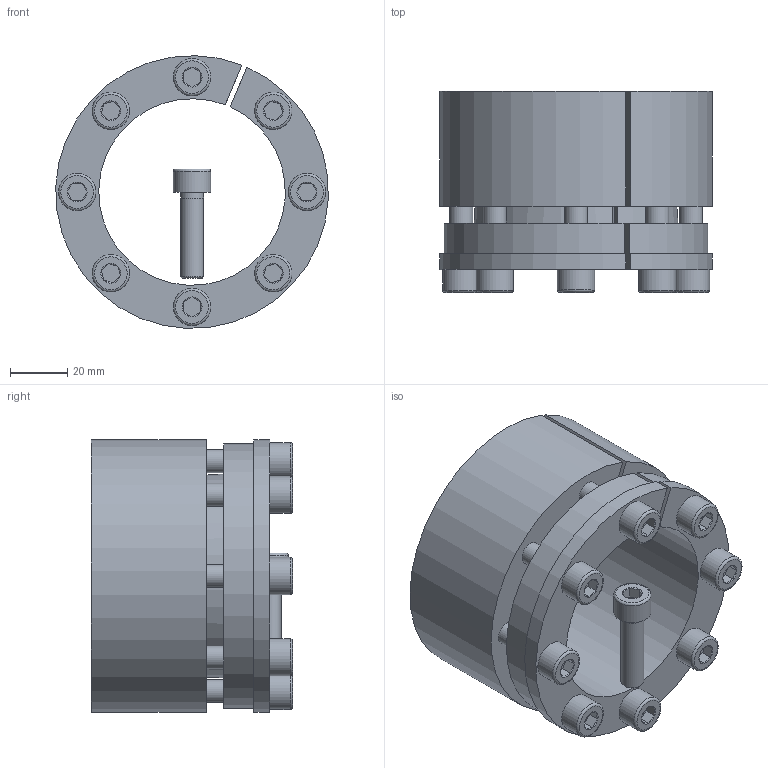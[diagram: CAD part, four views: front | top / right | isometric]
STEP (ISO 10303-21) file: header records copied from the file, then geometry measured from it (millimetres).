
FILE_DESCRIPTION( ( 'Unknown' ), '1' );
FILE_NAME( 'C:/Dokumente und Einstellungen/Sven/Desktop/homepage/cad - homepage/KBS70/KBS 70 - 65 x 95.stp', 'Unknown', ( 'Unknown' ), ( 'Unknown' ), 'XStep 1.0', 'Unknown', ' ' );
FILE_SCHEMA( ( 'automotive_design' ) );
Length unit declared in the file: millimetre
Products named in the file (3): Assem1; KBS 70 - 65 x 95; ISO EN DIN 4762 M8x30
Bounding box: 94.9 x 70 x 94.93 mm (x, y, z)
Volume: 393210 mm3; surface area: 123867.4 mm2
Topology: 11 solids, 11 shells, 285 faces, 583 edges, 356 vertices
Faces by surface type: plane 124, cylinder 76, cone 67, torus 18
Full cylindrical faces by diameter (mm): 7 x9, 8 x50, 13 x9
Entity records: 1882 total; most frequent: CARTESIAN_POINT 305, DIRECTION 284, ORIENTED_EDGE 206, AXIS2_PLACEMENT_3D 126, EDGE_LOOP 114, EDGE_CURVE 103, VERTEX_POINT 79, FACE_OUTER_BOUND 77
